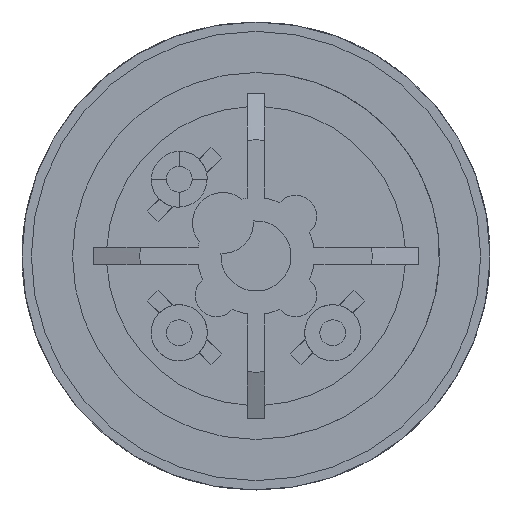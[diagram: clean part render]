
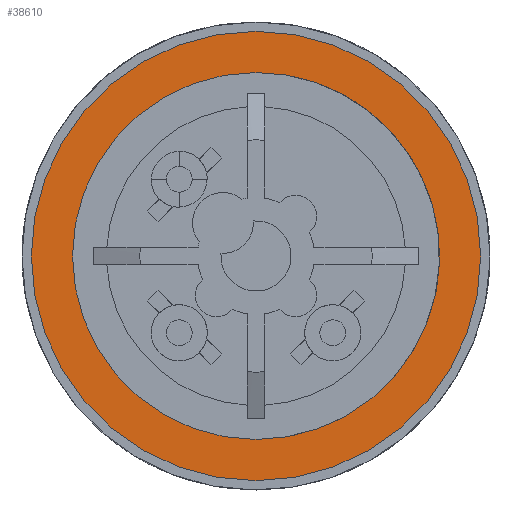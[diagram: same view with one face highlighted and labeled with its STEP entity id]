
A CAD part, left-side view. The second image highlights one B-rep face of the part: STEP entity #38610.
In plain terms, the highlighted planar face has unit normal (-1, 0, 0) as drawn and (0, 0, -1) by its records, which use the part's own axes.
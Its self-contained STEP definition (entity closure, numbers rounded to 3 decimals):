
#38260=CARTESIAN_POINT('',(37.447,1.544,
35.473));
#38270=DIRECTION('',(0.,0.,-1.));
#38280=DIRECTION('',(0.,1.,0.));
#38290=AXIS2_PLACEMENT_3D('',#38260,#38270,#38280);
#38300=PLANE('',#38290);
#38310=CARTESIAN_POINT('',(26.7,1.544,
35.473));
#38320=DIRECTION('',(0.,0.,-1.));
#38330=DIRECTION('',(-1.,0.,0.));
#38340=AXIS2_PLACEMENT_3D('',#38310,#38320,#38330);
#38350=CIRCLE('',#38340,9.8);
#38360=CARTESIAN_POINT('',(16.9,1.544,
35.473));
#38370=VERTEX_POINT('',#38360);
#38380=CARTESIAN_POINT('',(36.5,1.544,
35.473));
#38390=VERTEX_POINT('',#38380);
#38400=EDGE_CURVE('',#38370,#38390,#38350,.T.);
#38410=ORIENTED_EDGE('',*,*,#38400,.F.);
#38420=EDGE_CURVE('',#38390,#38370,#38350,.T.);
#38430=ORIENTED_EDGE('',*,*,#38420,.F.);
#38440=EDGE_LOOP('',(#38430,#38410));
#38450=FACE_BOUND('',#38440,.T.);
#38460=CARTESIAN_POINT('',(26.7,1.544,
35.473));
#38470=DIRECTION('',(0.,0.,-1.));
#38480=DIRECTION('',(0.,1.,0.));
#38490=AXIS2_PLACEMENT_3D('',#38460,#38470,#38480);
#38500=CIRCLE('',#38490,12.);
#38510=CARTESIAN_POINT('',(26.7,13.544,
35.473));
#38520=VERTEX_POINT('',#38510);
#38530=CARTESIAN_POINT('',(26.7,-10.456,
35.473));
#38540=VERTEX_POINT('',#38530);
#38550=EDGE_CURVE('',#38520,#38540,#38500,.T.);
#38560=ORIENTED_EDGE('',*,*,#38550,.T.);
#38570=EDGE_CURVE('',#38540,#38520,#38500,.T.);
#38580=ORIENTED_EDGE('',*,*,#38570,.T.);
#38590=EDGE_LOOP('',(#38580,#38560));
#38600=FACE_OUTER_BOUND('',#38590,.T.);
#38610=ADVANCED_FACE('',(#38450,#38600),#38300,.T.);
